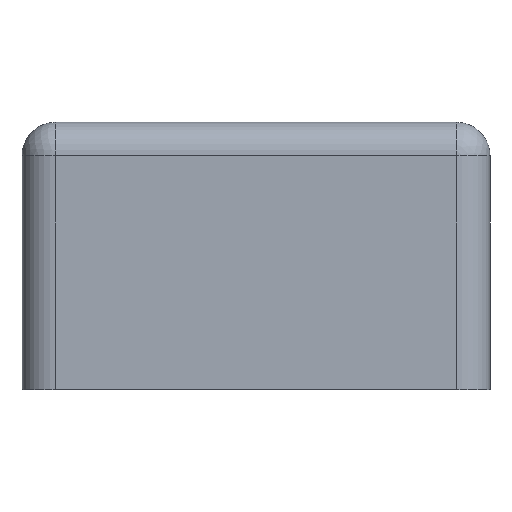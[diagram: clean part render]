
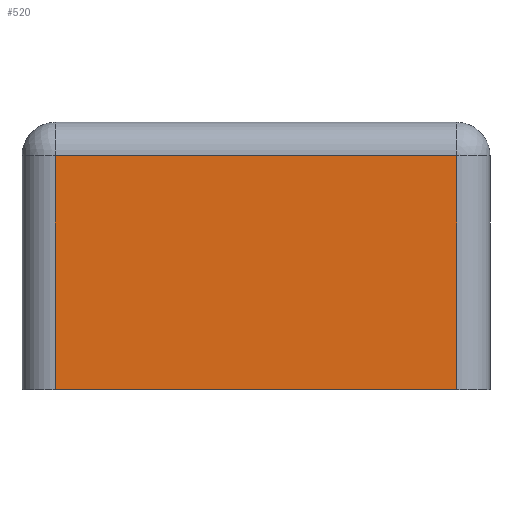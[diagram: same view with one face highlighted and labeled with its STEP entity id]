
A CAD part, left-side view. The second image highlights one B-rep face of the part: STEP entity #520.
In plain terms, the highlighted planar face has unit normal (-1, 0, 0).
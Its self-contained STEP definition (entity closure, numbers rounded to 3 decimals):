
#36=PLANE('',#595);
#73=FACE_OUTER_BOUND('',#108,.T.);
#108=EDGE_LOOP('',(#442,#443,#444,#445));
#116=LINE('',#785,#156);
#123=LINE('',#816,#163);
#149=LINE('',#1026,#189);
#150=LINE('',#1027,#190);
#156=VECTOR('',#616,10.);
#163=VECTOR('',#657,10.);
#189=VECTOR('',#753,10.);
#190=VECTOR('',#754,10.);
#223=VERTEX_POINT('',#782);
#224=VERTEX_POINT('',#784);
#231=VERTEX_POINT('',#814);
#255=VERTEX_POINT('',#1025);
#263=EDGE_CURVE('',#223,#224,#116,.T.);
#280=EDGE_CURVE('',#231,#223,#123,.T.);
#323=EDGE_CURVE('',#231,#255,#149,.T.);
#324=EDGE_CURVE('',#224,#255,#150,.T.);
#442=ORIENTED_EDGE('',*,*,#263,.F.);
#443=ORIENTED_EDGE('',*,*,#280,.F.);
#444=ORIENTED_EDGE('',*,*,#323,.T.);
#445=ORIENTED_EDGE('',*,*,#324,.F.);
#520=ADVANCED_FACE('',(#73),#36,.T.);
#595=AXIS2_PLACEMENT_3D('',#1024,#751,#752);
#616=DIRECTION('',(0.,-1.,0.));
#657=DIRECTION('',(0.,0.,1.));
#751=DIRECTION('center_axis',(-1.,0.,0.));
#752=DIRECTION('ref_axis',(0.,-1.,0.));
#753=DIRECTION('',(0.,-1.,0.));
#754=DIRECTION('',(0.,0.,-1.));
#782=CARTESIAN_POINT('',(0.,32.5,17.5));
#784=CARTESIAN_POINT('',(0.,2.5,17.5));
#785=CARTESIAN_POINT('',(0.,26.25,17.5));
#814=CARTESIAN_POINT('',(0.,32.5,0.));
#816=CARTESIAN_POINT('',(0.,32.5,0.));
#1024=CARTESIAN_POINT('Origin',(0.,35.,0.));
#1025=CARTESIAN_POINT('',(0.,2.5,0.));
#1026=CARTESIAN_POINT('',(0.,35.,0.));
#1027=CARTESIAN_POINT('',(0.,2.5,0.));
